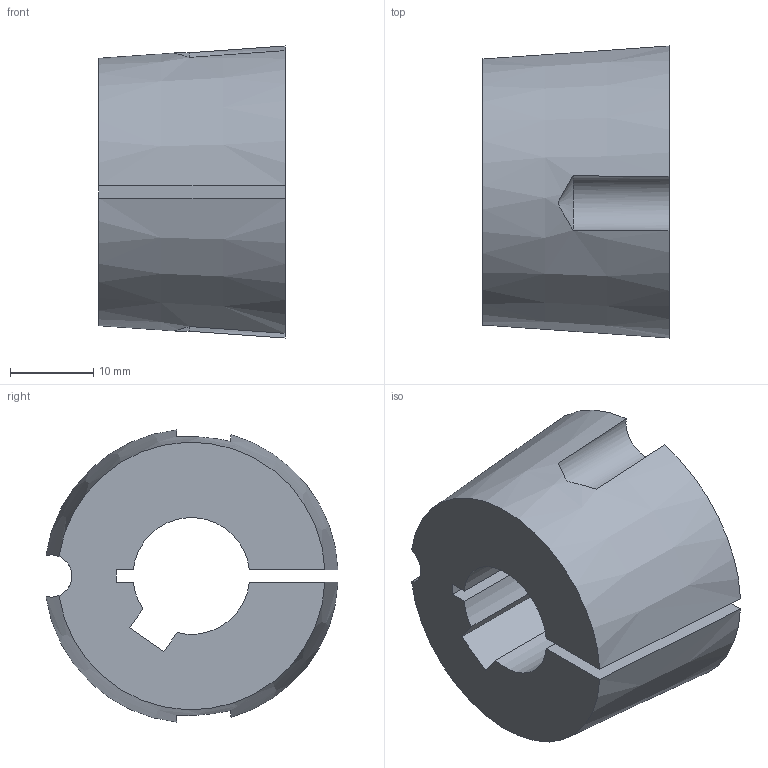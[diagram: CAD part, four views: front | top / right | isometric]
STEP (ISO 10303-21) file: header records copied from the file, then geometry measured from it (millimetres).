
FILE_DESCRIPTION( ( 'STEP AP203' ), '1' );
FILE_NAME( 'D:/export/antriebselemente/spannbuchsen_und_spannsaetze/taper-spannbuchsen_1008_bis_5050/taper-spannbuchsen_62250114Isometric_6.stp', '2018-12-11T11:10:56', ( '' ), ( '' ), ' ', 'PARTsolutions', ' ' );
FILE_SCHEMA( ( 'CONFIG_CONTROL_DESIGN' ) );
Length unit declared in the file: millimetre
Products named in the file (1): _taper-spannbuchsen_62250114
Bounding box: 22.3 x 35.01 x 35.02 mm (x, y, z)
Volume: 15079.9 mm3; surface area: 5441.4 mm2
Topology: 1 solids, 1 shells, 20 faces, 54 edges, 36 vertices
Faces by surface type: plane 10, cylinder 6, cone 4
Entity records: 736 total; most frequent: CARTESIAN_POINT 187, ORIENTED_EDGE 108, DIRECTION 104, EDGE_CURVE 54, AXIS2_PLACEMENT_3D 39, VERTEX_POINT 36, LINE 26, VECTOR 26
